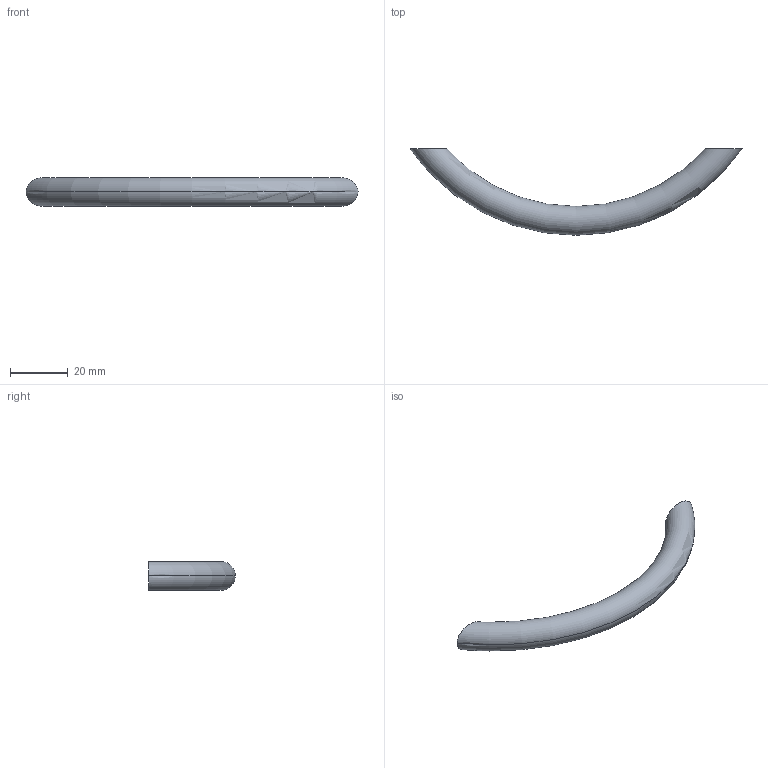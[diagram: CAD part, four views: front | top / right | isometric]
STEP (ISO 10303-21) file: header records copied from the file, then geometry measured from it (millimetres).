
FILE_DESCRIPTION( ( '' ), '1' );
FILE_NAME( 'D:/1.AUTOCAD EXPORT/Group 10/sheet_10_1/ 9070446.stp', '2013-10-21T12:38:52', ( '' ), ( '' ), ' ', ' ', ' ' );
FILE_SCHEMA( ( 'automotive_design' ) );
Length unit declared in the file: millimetre
Products named in the file (1): 1
Bounding box: 115 x 30 x 10 mm (x, y, z)
Volume: 9117.2 mm3; surface area: 4057.3 mm2
Topology: 1 solids, 1 shells, 10 faces, 18 edges, 12 vertices
Faces by surface type: cylinder 4, plane 4, torus 2
Entity records: 686 total; most frequent: CARTESIAN_POINT 229, DIRECTION 46, STYLED_ITEM 41, PRESENTATION_STYLE_ASSIGNMENT 41, COLOUR_RGB 41, ORIENTED_EDGE 36, AXIS2_PLACEMENT_3D 21, EDGE_CURVE 18
